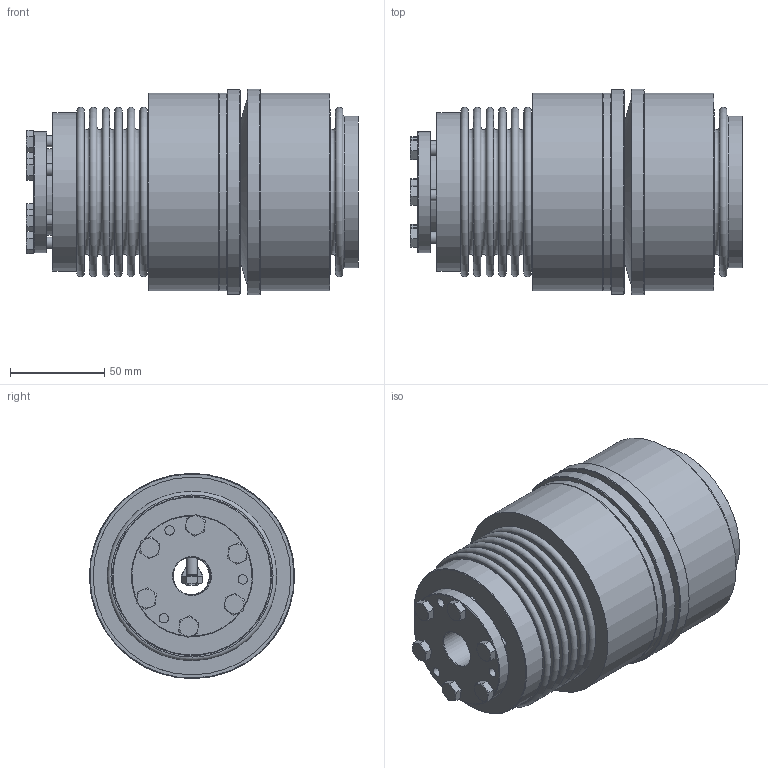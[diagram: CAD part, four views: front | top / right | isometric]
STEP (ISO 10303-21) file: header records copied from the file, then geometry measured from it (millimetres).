
FILE_DESCRIPTION( ( 'Unknown' ), '1' );
FILE_NAME( 'C:/Dokumente und Einstellungen/SKarpstein/Desktop/Korrigierte 3D Modelle/KBK-B-II/KBK-BII-200-135.stp', 'Unknown', ( 'Unknown' ), ( 'Unknown' ), 'XStep 1.0', 'Unknown', ' ' );
FILE_SCHEMA( ( 'automotive_design' ) );
Length unit declared in the file: millimetre
Products named in the file (12): Assem1; Assem2; BA200_Standard_3; Hex Screw GradeC_ISO_ISO 4018 - M6 x 25-NN_3; KB200_Standard_3; Stellring 200; Druckring 200; KBK L-I-200 Grundkörper; Konusbuchse 200; din_en_24017_m6x25_0; BL200_Standard_0; Flansch BI200
Bounding box: 176.3 x 109 x 109 mm (x, y, z)
Volume: 1249198 mm3; surface area: 479880.7 mm2
Topology: 38 solids, 38 shells, 840 faces, 1756 edges, 1116 vertices
Faces by surface type: plane 356, cone 241, cylinder 179, torus 64
Full cylindrical faces by diameter (mm): 3.242 x6, 4.917 x18, 5 x9, 5.2 x12, 6 x38, 6.5 x30, 8.8 x7, 20 x7, 46 x5, 47 x2, 50 x4, 60 x2, 62 x2, 63 x3, 64 x2, 64.5 x3, 65 x2, 66 x4, 77 x2, 79.2 x4, 80.4 x4, 84.5 x3, 90 x2, 98 x2, 105 x4, 109 x2
Entity records: 6581 total; most frequent: CARTESIAN_POINT 1382, DIRECTION 1124, ORIENTED_EDGE 700, AXIS2_PLACEMENT_3D 538, EDGE_LOOP 506, FACE_OUTER_BOUND 350, EDGE_CURVE 350, VERTEX_POINT 302
